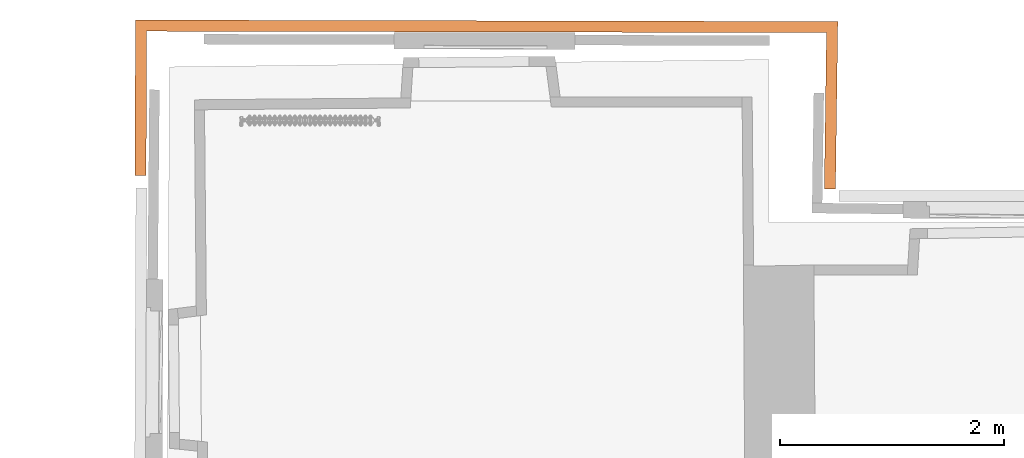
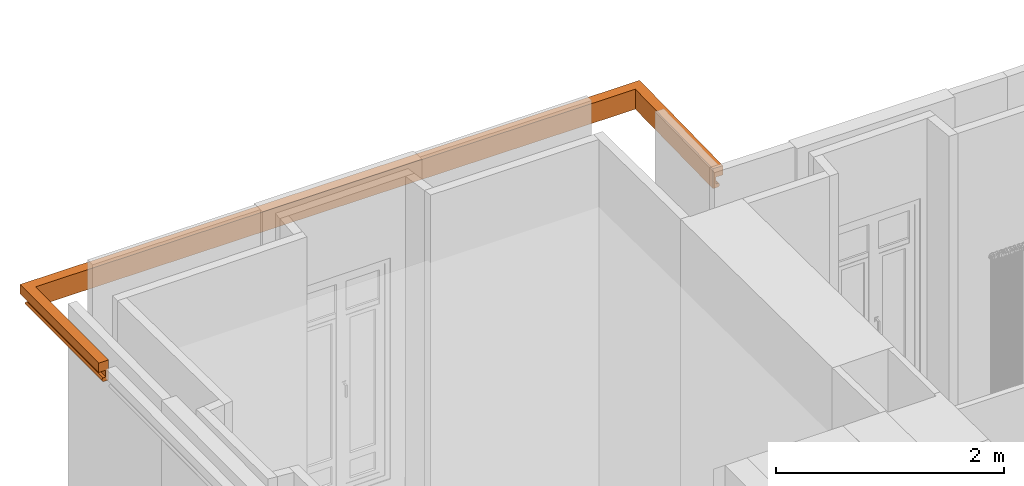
# One storey, part 65 of 66: 1 proxy.
"""IFC2X3 building model written with IfcOpenShell, lengths in centimetres."""

from ifc_helpers import new_model, entity, si_unit, converted_unit, direction, frame, origin, origin_with_axes, place, context, subcontext, project, spatial, faceted_brep, material, type_object, element, save


model = new_model("IFC2X3")

# Units and contexts
model_context = context("Model", 3, precision=0.0001, world=origin(), true_north=direction((0.225632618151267, 0.974212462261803, 0.0)))
body_context = subcontext(model_context, "Body", "Model", "MODEL_VIEW")
ifc_project = project(units=[si_unit("LENGTHUNIT", "METRE", prefix="CENTI"), si_unit("AREAUNIT", "SQUARE_METRE", prefix="CENTI"), si_unit("VOLUMEUNIT", "CUBIC_METRE", prefix="CENTI"), converted_unit("PLANEANGLEUNIT", "DEGREE", entity("IfcRatioMeasure", 0.0174532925), si_unit("PLANEANGLEUNIT", "RADIAN"), dimensions=[0, 0, 0, 0, 0, 0, 0])], contexts=[model_context])

# Site, building, storey
site_placement = place(None, origin_with_axes())
site = spatial("IfcSite", under=ifc_project, at=site_placement, Name="Default Site", CompositionType="ELEMENT")
building_placement = place(site_placement, origin_with_axes())
building = spatial("IfcBuilding", under=site, at=building_placement, Name="Default Building", CompositionType="ELEMENT")
storey_placement = place(building_placement, frame((0.0, 0.0, 477.795358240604), z_axis=(0.0, 0.0, 1.0), x_axis=(1.0, 0.0, 0.0)))
storey = spatial("IfcBuildingStorey", under=building, at=storey_placement, Name="Niveau 1", CompositionType="ELEMENT", Elevation=477.795358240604)

# Proxy
ifc_material = material(Name="Aluminium mat")
building_element_proxy_type = type_object("IfcBuildingElementProxyType", Name="Corniche niv1", PredefinedType="NOTDEFINED", material=ifc_material)
proxy_placement = place(storey_placement, origin_with_axes())
element("IfcBuildingElementProxy", 1, at=proxy_placement, inside=storey, type_object=building_element_proxy_type, material=ifc_material, Name="Extrusion (solide) 449949", context=body_context, shape_type="Brep", body=[
    faceted_brep([(-1258.87002944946, 764.54176902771, 363.400034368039), (-1268.82743835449, 774.549865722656, 363.400034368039), (-1269.2271232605, 635.7017993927, 363.400034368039), (-1259.24091339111, 635.673046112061, 363.400034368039), (-1268.82743835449, 774.549865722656, 353.399996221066), (-1269.22708825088, 635.701799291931, 353.399996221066), (-1269.22708825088, 635.701799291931, 363.400034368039), (-1261.8613243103, 767.548322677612, 353.399996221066), (-1262.24088668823, 635.681676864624, 353.399996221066), (-1269.2271232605, 635.7017993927, 353.399996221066), (-1261.8613243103, 767.548322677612, 346.100000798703), (-1262.24087940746, 635.681676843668, 346.100000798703), (-1262.24087940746, 635.681676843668, 353.399996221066), (-1264.32275772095, 770.022249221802, 346.100000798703), (-1264.70937728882, 635.688781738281, 346.100000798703), (-1262.24088668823, 635.681676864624, 346.100000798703), (-1264.67818574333, 770.37949560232, 345.875591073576), (-1265.0658577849, 635.6898307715, 345.875596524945), (-1264.70938747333, 635.688781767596, 346.100016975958), (-1264.67819213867, 770.379495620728, 345.875601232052), (-1264.98684557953, 770.689726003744, 345.589928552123), (-1265.37544434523, 635.690689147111, 345.589903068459), (-1265.06586629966, 635.689830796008, 345.875607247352), (-1264.98680114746, 770.689725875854, 345.589880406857), (-1265.23832426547, 770.942497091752, 345.252523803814), (-1265.62761838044, 635.69145187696, 345.25252698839), (-1265.3753906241, 635.690688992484, 345.589855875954), (-1265.23838043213, 770.942497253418, 345.252565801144), (-1265.42432421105, 771.129417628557, 344.874851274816), (-1265.81416292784, 635.691976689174, 344.874839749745), (-1265.62767564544, 635.691452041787, 345.25256844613), (-1265.4242515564, 771.129417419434, 344.874815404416), (-1265.5383547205, 771.244096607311, 344.469489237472), (-1265.92851582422, 635.69231022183, 344.46949289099), (-1265.81408671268, 635.691976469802, 344.8748078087), (-1265.53840637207, 771.244096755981, 344.469503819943), (-1265.57688180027, 771.282768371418, 344.04998638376), (-1265.96715553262, 635.692405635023, 344.049980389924), (-1265.92856840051, 635.692310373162, 344.469505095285), (-1265.57683944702, 771.282768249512, 344.049982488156), (-1265.53837271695, 771.244096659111, 343.63055961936), (-1265.92853474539, 635.692310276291, 343.630558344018), (-1265.96711317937, 635.692405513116, 344.049988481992), (-1265.53840637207, 771.244096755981, 343.6305565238), (-1265.4242782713, 771.129417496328, 343.225142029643), (-1265.81411342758, 635.691976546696, 343.225149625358), (-1265.92856747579, 635.6923103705, 343.630552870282), (-1265.4242515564, 771.129417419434, 343.225149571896), (-1265.23834563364, 770.942497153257, 342.847511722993), (-1265.62764084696, 635.691451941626, 342.847509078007), (-1265.81409027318, 635.69197648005, 343.225161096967), (-1265.23838043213, 770.942497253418, 342.847494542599), (-1264.98681157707, 770.689725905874, 342.510076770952), (-1265.37540105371, 635.690689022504, 342.510101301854), (-1265.6276745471, 635.691452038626, 342.847491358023), (-1264.98680114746, 770.689725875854, 342.510084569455), (-1264.67819523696, 770.379495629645, 342.224455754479), (-1265.06586939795, 635.689830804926, 342.22444973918), (-1265.37539991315, 635.690689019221, 342.510110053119), (-1264.67819213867, 770.379495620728, 342.224459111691), (-1264.32272111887, 770.022249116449, 342.000022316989), (-1264.70935087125, 635.688781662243, 342.000006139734), (-1265.06586418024, 635.689830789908, 342.224453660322), (-1264.32275772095, 770.022249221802, 341.999964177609), (-1258.87002944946, 764.54176902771, 341.999964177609), (-1259.24091339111, 635.673046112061, 341.999964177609), (-1264.70937728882, 635.688781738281, 341.999964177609), (-1259.24095554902, 635.673046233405, 363.400034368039), (-1259.24095554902, 635.673046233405, 341.999964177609), (-651.565980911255, 763.206672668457, 363.400034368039), (-641.441583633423, 773.17066192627, 363.400034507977), (-1268.82743835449, 774.549865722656, 363.400030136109), (-1258.87002944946, 764.54176902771, 363.400030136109), (-641.441583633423, 773.17066192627, 363.400034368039), (-641.44158363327, 773.170661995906, 353.399996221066), (-1268.82743835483, 774.549865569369, 353.399996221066), (-1268.82743835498, 774.549865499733, 363.400034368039), (-641.441583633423, 773.17066192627, 353.399996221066), (-648.524475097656, 766.200017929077, 353.399996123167), (-1261.8613243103, 767.548322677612, 353.399991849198), (-1268.82743835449, 774.549865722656, 353.399991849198), (-648.524475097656, 766.200017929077, 353.399996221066), (-648.524475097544, 766.200017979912, 346.100000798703), (-1261.86132427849, 767.548337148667, 346.100000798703), (-1261.8613242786, 767.548337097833, 353.399996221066), (-648.524475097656, 766.200017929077, 346.100000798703), (-646.021842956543, 768.662977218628, 346.100000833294), (-1264.32275772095, 770.022249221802, 346.099996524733), (-1261.8613243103, 767.548322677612, 346.099996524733), (-646.021842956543, 768.662977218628, 346.100000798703), (-645.660448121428, 769.018676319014, 345.875567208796), (-1264.67819218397, 770.379475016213, 345.875568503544), (-1264.32275775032, 770.022235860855, 346.099979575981), (-645.660448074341, 769.018697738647, 345.875601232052), (-645.346593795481, 769.32757306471, 345.589910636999), (-1264.98680109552, 770.689749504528, 345.589906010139), (-1264.67819213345, 770.379497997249, 345.875603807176), (-645.346593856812, 769.327545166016, 345.589880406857), (-645.090866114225, 769.579208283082, 345.252557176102), (-1265.2383804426, 770.942492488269, 345.252562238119), (-1264.98680115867, 770.689720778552, 345.589876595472), (-645.090866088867, 769.579219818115, 345.252565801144), (-644.901800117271, 769.765299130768, 344.874824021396), (-1265.42425155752, 771.129416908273, 344.87481515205), (-1265.2383804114, 770.942506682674, 345.252570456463), (-644.90180015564, 769.765281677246, 344.874815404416), (-644.785738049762, 769.879457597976, 344.469496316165), (-1265.53840641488, 771.244077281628, 344.469498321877), (-1265.42425160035, 771.129397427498, 344.874809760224), (-644.785737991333, 769.879484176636, 344.469503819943), (-644.746637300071, 769.917985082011, 344.049984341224), (-1265.57683942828, 771.282776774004, 344.049983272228), (-1265.53840635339, 771.244105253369, 344.469504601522), (-644.74663734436, 769.917964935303, 344.049982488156), (-644.785738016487, 769.87947273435, 343.630557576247), (-1265.53840637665, 771.244094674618, 343.630556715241), (-1265.57683947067, 771.282757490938, 344.049983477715), (-644.785737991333, 769.879484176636, 343.6305565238), (-644.901800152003, 769.765283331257, 343.22514910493), (-1265.42425159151, 771.129401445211, 343.225154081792), (-1265.53840635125, 771.244106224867, 343.630553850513), (-644.90180015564, 769.765281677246, 343.225149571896), (-645.090866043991, 769.579240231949, 342.847484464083), (-1265.23838035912, 770.942530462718, 342.847478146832), (-1265.42425158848, 771.129402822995, 343.225156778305), (-645.090866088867, 769.579219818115, 342.847494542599), (-645.346593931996, 769.327510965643, 342.510110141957), (-1264.98680122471, 770.68969073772, 342.510110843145), (-1265.23838040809, 770.942508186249, 342.847486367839), (-645.346593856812, 769.327545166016, 342.510084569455), (-645.660448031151, 769.01871738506, 342.224437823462), (-1264.67819208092, 770.379521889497, 342.224430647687), (-1264.9868011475, 770.689725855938, 342.510084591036), (-645.660448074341, 769.018697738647, 342.224459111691), (-646.021843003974, 768.662955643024, 341.99999844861), (-1264.32275778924, 770.022218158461, 342.000013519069), (-1264.67819212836, 770.379500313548, 342.224451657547), (-646.021842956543, 768.662977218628, 341.999964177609), (-651.565980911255, 763.206672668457, 341.999964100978), (-1258.87002944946, 764.54176902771, 341.999959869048), (-1264.32275772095, 770.022249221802, 341.999959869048), (-651.565980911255, 763.206672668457, 341.999964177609), (-651.565980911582, 763.206672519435, 363.400034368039), (-1258.87002953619, 764.541729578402, 363.400034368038), (-1258.87002953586, 764.541729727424, 341.999964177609), (-653.488540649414, 623.651456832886, 363.400034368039), (-643.503284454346, 623.513889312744, 363.400034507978), (-641.441583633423, 773.17066192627, 363.400034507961), (-651.565980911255, 763.206672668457, 363.400034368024), (-643.503284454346, 623.513889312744, 363.400034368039), (-643.503284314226, 623.513889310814, 353.399996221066), (-641.441560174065, 773.170661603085, 353.399996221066), (-641.441560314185, 773.170661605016, 363.400034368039), (-643.503284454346, 623.513889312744, 353.399996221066), (-650.48885345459, 623.61011505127, 353.399996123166), (-648.524475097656, 766.200017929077, 353.399996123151), (-641.441583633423, 773.17066192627, 353.39999622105), (-650.48885345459, 623.61011505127, 353.399996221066), (-650.488853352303, 623.61011504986, 346.100000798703), (-648.524484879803, 766.200018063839, 346.100000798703), (-648.52448498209, 766.200018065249, 353.399996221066), (-650.48885345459, 623.61011505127, 346.100000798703), (-648.020601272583, 623.57611656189, 346.100000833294), (-646.021842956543, 768.662977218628, 346.100000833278), (-648.524475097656, 766.200017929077, 346.100000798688), (-648.020601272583, 623.57611656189, 346.100000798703), (-647.664174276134, 623.571205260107, 345.875587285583), (-645.660451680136, 769.018697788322, 345.875595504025), (-646.021840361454, 768.662977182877, 346.10000492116), (-647.664165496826, 623.57120513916, 345.875601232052), (-647.35462632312, 623.566913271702, 345.589906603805), (-645.346572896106, 769.327544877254, 345.589903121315), (-645.660439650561, 769.018697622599, 345.875610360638), (-647.354650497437, 623.566913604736, 345.589880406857), (-647.102436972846, 623.563480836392, 345.252540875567), (-645.09088246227, 769.579220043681, 345.252553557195), (-645.34659840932, 769.327545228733, 345.589877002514), (-647.102403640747, 623.563480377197, 345.252565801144), (-646.915930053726, 623.560905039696, 344.874830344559), (-644.901767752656, 769.765281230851, 344.874831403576), (-645.090844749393, 769.579219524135, 345.252576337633), (-646.91596031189, 623.560905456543, 344.874815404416), (-646.801540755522, 623.559332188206, 344.469497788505), (-644.785781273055, 769.8794847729, 344.46949159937), (-644.901797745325, 769.765281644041, 344.874816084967), (-646.801519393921, 623.559331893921, 344.469503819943), (-646.762936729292, 623.558759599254, 344.049983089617), (-644.746640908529, 769.917964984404, 344.049982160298), (-644.785761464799, 769.879484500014, 344.469501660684), (-646.762943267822, 623.558759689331, 344.049982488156), (-646.801517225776, 623.559331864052, 343.630556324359), (-644.785759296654, 769.879484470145, 343.630558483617), (-644.74664744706, 769.917965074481, 344.049983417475), (-646.801519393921, 623.559331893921, 343.6305565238), (-646.915963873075, 623.560905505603, 343.225150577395), (-644.90180130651, 769.765281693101, 343.225149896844), (-644.785759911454, 769.879484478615, 343.630562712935), (-646.91596031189, 623.560905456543, 343.225149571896), (-647.102396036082, 623.563480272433, 342.847490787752), (-645.090837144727, 769.579219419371, 342.847480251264), (-644.90179801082, 769.765281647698, 343.225148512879), (-647.102403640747, 623.563480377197, 342.847494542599), (-647.354662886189, 623.566913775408, 342.510093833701), (-645.346610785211, 769.327545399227, 342.510097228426), (-645.090849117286, 769.579219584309, 342.847481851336), (-647.354650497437, 623.566913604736, 342.510084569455), (-647.664142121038, 623.571204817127, 342.224433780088), (-645.660416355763, 769.018697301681, 342.22442473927), (-645.346597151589, 769.327545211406, 342.510088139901), (-647.664165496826, 623.57120513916, 342.224459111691), (-648.020635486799, 623.576117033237, 342.000018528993), (-646.021874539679, 768.662977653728, 342.000014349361), (-645.660442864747, 769.018697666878, 342.224450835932), (-648.020601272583, 623.57611656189, 341.999964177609), (-653.488540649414, 623.651456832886, 341.999964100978), (-651.565980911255, 763.206672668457, 341.999964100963), (-646.021842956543, 768.662977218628, 341.999964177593), (-653.488540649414, 623.651456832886, 341.999964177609), (-653.48854094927, 623.651456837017, 363.400034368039), (-651.565979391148, 763.206672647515, 363.400034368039), (-651.565979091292, 763.206672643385, 341.999964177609), (-1269.22712328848, 635.701789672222, 363.400034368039), (-1269.22712328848, 635.701789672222, 353.399996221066), (-1262.2408866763, 635.681681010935, 353.399996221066), (-1262.2408866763, 635.681681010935, 346.100000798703), (-1264.70937727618, 635.688786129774, 346.100000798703), (-1265.06586080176, 635.689812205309, 345.875601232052), (-1265.3754233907, 635.690703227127, 345.589880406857), (-1265.62767035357, 635.691429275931, 345.252565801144), (-1265.81411364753, 635.691965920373, 344.874815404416), (-1265.92855457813, 635.692295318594, 344.469503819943), (-1265.96717834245, 635.69240649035, 344.049982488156), (-1265.92855457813, 635.692295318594, 343.6305565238), (-1265.81411364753, 635.691965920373, 343.225149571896), (-1265.62767035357, 635.691429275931, 342.847494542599), (-1265.3754233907, 635.690703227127, 342.510084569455), (-1265.06586080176, 635.689812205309, 342.224459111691), (-1264.70937727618, 635.688786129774, 341.999964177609), (-648.020601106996, 623.576128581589, 341.999964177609), (-647.664165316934, 623.571218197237, 342.224459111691), (-647.354649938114, 623.566954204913, 342.510084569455), (-647.102403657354, 623.563479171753, 342.847494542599), (-646.915960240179, 623.560910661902, 343.225149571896), (-646.801519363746, 623.559334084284, 343.6305565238), (-646.762942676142, 623.558802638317, 344.049982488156), (-646.801519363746, 623.559334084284, 344.469503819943), (-646.915960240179, 623.560910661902, 344.874815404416), (-647.102403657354, 623.563479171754, 345.252565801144), (-647.354649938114, 623.566954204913, 345.589880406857), (-647.664165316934, 623.571218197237, 345.875601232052), (-648.020601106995, 623.576128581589, 346.100000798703), (-650.488853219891, 623.61013208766, 346.100000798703), (-650.488853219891, 623.610132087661, 353.399996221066), (-643.503284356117, 623.513896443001, 353.399996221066), (-643.503284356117, 623.513896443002, 363.400034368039), (-653.488540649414, 623.651456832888, 363.400034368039)], [[[0, 1, 2, 3]], [[1, 4, 5, 6]], [[4, 7, 8, 9]], [[7, 10, 11, 12]], [[10, 13, 14, 15]], [[13, 16, 17, 18]], [[19, 20, 21, 22]], [[23, 24, 25, 26]], [[27, 28, 29, 30]], [[31, 32, 33, 34]], [[35, 36, 37, 38]], [[39, 40, 41, 42]], [[43, 44, 45, 46]], [[47, 48, 49, 50]], [[51, 52, 53, 54]], [[55, 56, 57, 58]], [[59, 60, 61, 62]], [[63, 64, 65, 66]], [[64, 0, 67, 68]], [[69, 70, 71, 72]], [[73, 74, 75, 76]], [[77, 78, 79, 80]], [[81, 82, 83, 84]], [[85, 86, 87, 88]], [[89, 90, 91, 92]], [[93, 94, 95, 96]], [[97, 98, 99, 100]], [[101, 102, 103, 104]], [[105, 106, 107, 108]], [[109, 110, 111, 112]], [[113, 114, 115, 116]], [[117, 118, 119, 120]], [[121, 122, 123, 124]], [[125, 126, 127, 128]], [[129, 130, 131, 132]], [[133, 134, 135, 136]], [[137, 138, 139, 140]], [[141, 142, 143, 144]], [[145, 146, 147, 148]], [[149, 150, 151, 152]], [[153, 154, 155, 156]], [[157, 158, 159, 160]], [[161, 162, 163, 164]], [[165, 166, 167, 168]], [[169, 170, 171, 172]], [[173, 174, 175, 176]], [[177, 178, 179, 180]], [[181, 182, 183, 184]], [[185, 186, 187, 188]], [[189, 190, 191, 192]], [[193, 194, 195, 196]], [[197, 198, 199, 200]], [[201, 202, 203, 204]], [[205, 206, 207, 208]], [[209, 210, 211, 212]], [[213, 214, 215, 216]], [[217, 218, 219, 220]], [[3, 221, 222, 223, 224, 225, 226, 227, 228, 229, 230, 231, 232, 233, 234, 235, 236, 237, 65]], [[217, 238, 239, 240, 241, 242, 243, 244, 245, 246, 247, 248, 249, 250, 251, 252, 253, 254, 255]]]),
])

save(model, "model.ifc")
